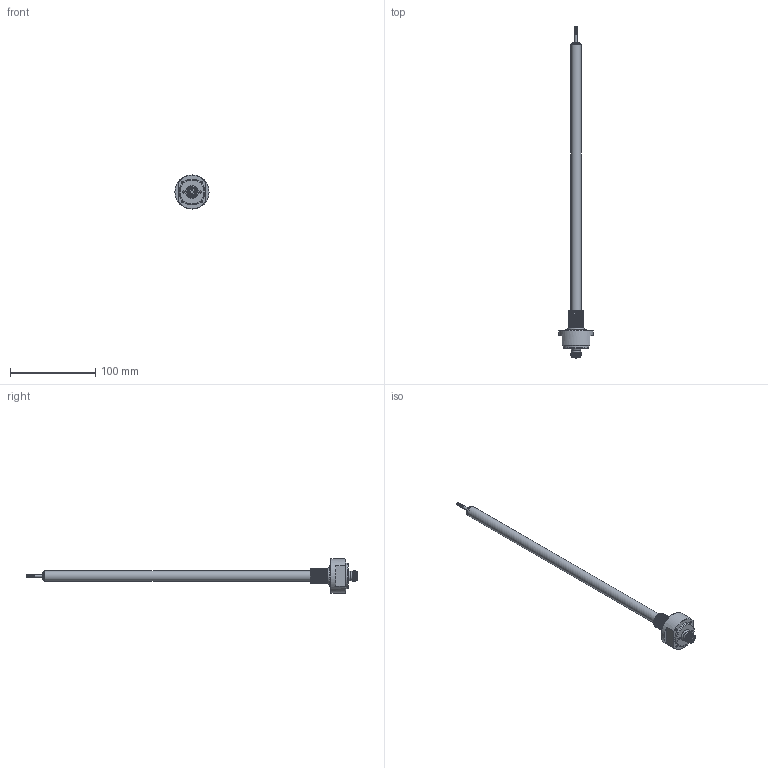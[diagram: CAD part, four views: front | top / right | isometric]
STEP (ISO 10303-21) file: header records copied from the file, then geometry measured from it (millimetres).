
FILE_DESCRIPTION( ( 'Unknown' ), '1' );
FILE_NAME( 'N:/Engineering/CAD/LVDT/HYD/Kunden-3D-Modell/SM160-HYD-18-S-M12.stp', 'Unknown', ( 'Unknown' ), ( 'Unknown' ), 'PSStep 17.0.49', 'Unknown', ' ' );
FILE_SCHEMA( ( 'AUTOMOTIVE_DESIGN { 1 0 10303 214 1 1 1 1 }' ) );
Length unit declared in the file: millimetre
Products named in the file (11): Einbaustecker_Waycon; Einbausteckverbinder_Waycon; Kontaktstift_M12; Assem1; Endkappe; Innenrohr_SM5-HYD; Kernverlängerung_SM5-HYD; SM-HYD-Flansch_M18_vereinfacht; O-Ring_15,4x2,1; Endkappe_HYD-KA_vereinfacht; Aussenrohr_SM160-HYD_vereinfacht
Assembly tree (13 placements, depth 3):
  Assem1
    Endkappe
    Innenrohr_SM5-HYD
    Kernverlängerung_SM5-HYD
    SM-HYD-Flansch_M18_vereinfacht
    O-Ring_15,4x2,1
    Endkappe_HYD-KA_vereinfacht
    Aussenrohr_SM160-HYD_vereinfacht
    Einbaustecker_Waycon
      Einbausteckverbinder_Waycon
      Kontaktstift_M12  x4
Bounding box: 40 x 389.2 x 40 mm (x, y, z)
Volume: 66342.6 mm3; surface area: 28140.5 mm2
Topology: 12 solids, 12 shells, 261 faces, 583 edges, 383 vertices
Faces by surface type: plane 122, cylinder 68, cone 37, extrusion 18, bspline 8, torus 8
Full cylindrical faces by diameter (mm): 0.5 x4, 1 x12, 1.2 x8, 1.8 x4, 2.013 x1, 2.4 x1, 2.5 x4, 2.6 x2, 3 x1, 4 x1, 6 x2, 8 x2, 8.2 x1, 8.3 x1, 9 x1, 9.35 x1, 9.55 x1, 10 x1, 10.05 x1, 10.5 x1, 10.6 x2, 11 x2, 12 x2, 15.8 x1, 22.5 x1, 24 x2, 30 x1, 40 x1
Entity records: 14294 total; most frequent: CARTESIAN_POINT 7955, DIRECTION 870, ORIENTED_EDGE 796, EDGE_CURVE 398, EDGE_LOOP 331, AXIS2_PLACEMENT_3D 327, VERTEX_POINT 309, FACE_OUTER_BOUND 264
